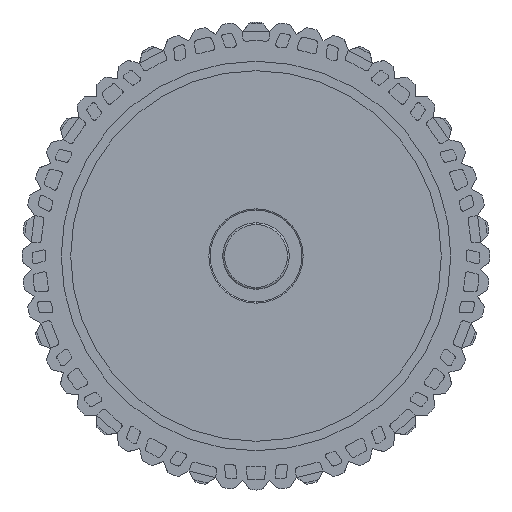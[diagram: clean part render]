
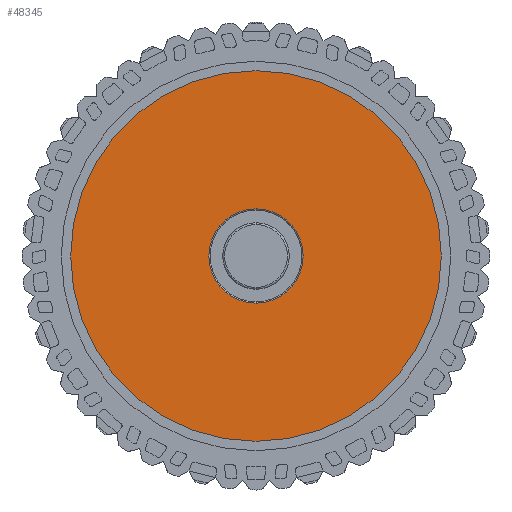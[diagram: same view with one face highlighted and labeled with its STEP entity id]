
A CAD part, front view. The second image highlights one B-rep face of the part: STEP entity #48345.
In plain terms, the highlighted planar face has unit normal (0, -1, 0).
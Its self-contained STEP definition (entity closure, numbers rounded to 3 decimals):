
#538 = CIRCLE ( 'NONE', #35363, 7.5 ) ;
#5849 = ORIENTED_EDGE ( 'NONE', *, *, #56663, .T. ) ;
#15693 = CARTESIAN_POINT ( 'NONE',  ( 0., -7., 0. ) ) ;
#19085 = CARTESIAN_POINT ( 'NONE',  ( 0., -7., 29.5 ) ) ;
#19883 = ORIENTED_EDGE ( 'NONE', *, *, #114417, .T. ) ;
#23124 = AXIS2_PLACEMENT_3D ( 'NONE', #123026, #125318, #66150 ) ;
#27333 = AXIS2_PLACEMENT_3D ( 'NONE', #82062, #106192, #129554 ) ;
#28326 = CARTESIAN_POINT ( 'NONE',  ( 0., -7., 0. ) ) ;
#32356 = AXIS2_PLACEMENT_3D ( 'NONE', #15693, #85805, #97485 ) ;
#35363 = AXIS2_PLACEMENT_3D ( 'NONE', #80163, #126110, #138555 ) ;
#38959 = FACE_BOUND ( 'NONE', #114336, .T. ) ;
#39031 = CIRCLE ( 'NONE', #126054, 29.5 ) ;
#48345 = ADVANCED_FACE ( 'NONE', ( #38959, #83594 ), #133931, .F. ) ;
#52444 = DIRECTION ( 'NONE',  ( 0., -1., 0. ) ) ;
#56663 = EDGE_CURVE ( 'NONE', #114751, #94044, #72169, .T. ) ;
#66150 = DIRECTION ( 'NONE',  ( 0., 0., -1. ) ) ;
#72169 = CIRCLE ( 'NONE', #32356, 7.5 ) ;
#80163 = CARTESIAN_POINT ( 'NONE',  ( 0., -7., 0. ) ) ;
#82062 = CARTESIAN_POINT ( 'NONE',  ( 0., -7., 0. ) ) ;
#83594 = FACE_OUTER_BOUND ( 'NONE', #133817, .T. ) ;
#85805 = DIRECTION ( 'NONE',  ( 0., 1., 0. ) ) ;
#94044 = VERTEX_POINT ( 'NONE', #108932 ) ;
#97485 = DIRECTION ( 'NONE',  ( 0., 0., 1. ) ) ;
#99917 = EDGE_CURVE ( 'NONE', #110473, #121432, #115011, .T. ) ;
#99949 = DIRECTION ( 'NONE',  ( 0., 0., -1. ) ) ;
#106192 = DIRECTION ( 'NONE',  ( 0., 1., 0. ) ) ;
#108932 = CARTESIAN_POINT ( 'NONE',  ( 0., -7., -7.5 ) ) ;
#109422 = CARTESIAN_POINT ( 'NONE',  ( 0., -7., -29.5 ) ) ;
#110044 = ORIENTED_EDGE ( 'NONE', *, *, #99917, .T. ) ;
#110473 = VERTEX_POINT ( 'NONE', #19085 ) ;
#114336 = EDGE_LOOP ( 'NONE', ( #5849, #146981 ) ) ;
#114417 = EDGE_CURVE ( 'NONE', #121432, #110473, #39031, .T. ) ;
#114751 = VERTEX_POINT ( 'NONE', #129322 ) ;
#115011 = CIRCLE ( 'NONE', #23124, 29.5 ) ;
#121432 = VERTEX_POINT ( 'NONE', #109422 ) ;
#123026 = CARTESIAN_POINT ( 'NONE',  ( 0., -7., 0. ) ) ;
#125318 = DIRECTION ( 'NONE',  ( 0., -1., 0. ) ) ;
#126054 = AXIS2_PLACEMENT_3D ( 'NONE', #28326, #52444, #99949 ) ;
#126110 = DIRECTION ( 'NONE',  ( 0., 1., 0. ) ) ;
#129236 = EDGE_CURVE ( 'NONE', #94044, #114751, #538, .T. ) ;
#129322 = CARTESIAN_POINT ( 'NONE',  ( 0., -7., 7.5 ) ) ;
#129554 = DIRECTION ( 'NONE',  ( 0., 0., 1. ) ) ;
#133817 = EDGE_LOOP ( 'NONE', ( #19883, #110044 ) ) ;
#133931 = PLANE ( 'NONE',  #27333 ) ;
#138555 = DIRECTION ( 'NONE',  ( 0., 0., 1. ) ) ;
#146981 = ORIENTED_EDGE ( 'NONE', *, *, #129236, .T. ) ;
